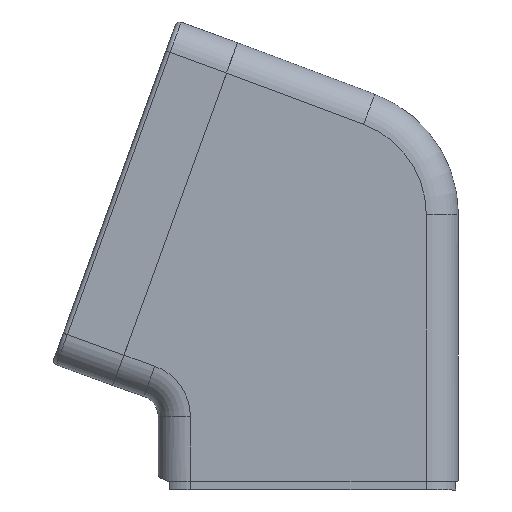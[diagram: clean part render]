
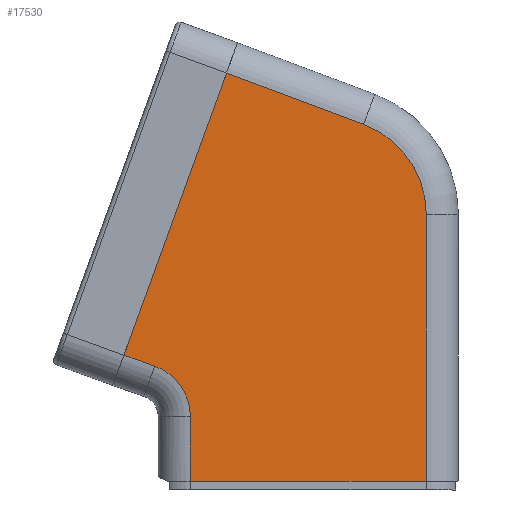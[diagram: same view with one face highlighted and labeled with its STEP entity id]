
A CAD part, left-side view. The second image highlights one B-rep face of the part: STEP entity #17530.
In plain terms, the highlighted planar face has unit normal (-1, 0, 0).
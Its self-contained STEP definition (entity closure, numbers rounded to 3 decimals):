
#254 = LINE ( 'NONE', #9637, #25061 ) ;
#760 = ORIENTED_EDGE ( 'NONE', *, *, #7669, .T. ) ;
#1112 = LINE ( 'NONE', #3852, #20192 ) ;
#1234 = CARTESIAN_POINT ( 'NONE',  ( -42.5, -12.88, 83.263 ) ) ;
#1364 = CARTESIAN_POINT ( 'NONE',  ( -42.5, 27.5, 1.61 ) ) ;
#1486 = DIRECTION ( 'NONE',  ( 0., 0., 1. ) ) ;
#1686 = CARTESIAN_POINT ( 'NONE',  ( -42.5, 35.827, 26.887 ) ) ;
#1837 = CARTESIAN_POINT ( 'NONE',  ( -42.5, -34.5, 0.5 ) ) ;
#1860 = DIRECTION ( 'NONE',  ( 0., -0.342, 0.94 ) ) ;
#2212 = CIRCLE ( 'NONE', #23828, 22.5 ) ;
#2235 = CARTESIAN_POINT ( 'NONE',  ( -42.5, 35.827, 26.887 ) ) ;
#3852 = CARTESIAN_POINT ( 'NONE',  ( -42.5, 15.5, 0. ) ) ;
#3857 = DIRECTION ( 'NONE',  ( 0., 0., -1. ) ) ;
#4335 = DIRECTION ( 'NONE',  ( 0., 0., 1. ) ) ;
#4580 = EDGE_CURVE ( 'NONE', #29198, #23390, #28071, .T. ) ;
#5239 = ORIENTED_EDGE ( 'NONE', *, *, #7562, .T. ) ;
#5247 = CARTESIAN_POINT ( 'NONE',  ( -42.5, 27.5, 15.104 ) ) ;
#5332 = VECTOR ( 'NONE', #1486, 1000. ) ;
#5692 = VERTEX_POINT ( 'NONE', #26602 ) ;
#5944 = VERTEX_POINT ( 'NONE', #1234 ) ;
#6061 = VECTOR ( 'NONE', #9744, 1000. ) ;
#6350 = DIRECTION ( 'NONE',  ( 0., 1., 0. ) ) ;
#6729 = PLANE ( 'NONE',  #8433 ) ;
#7562 = EDGE_CURVE ( 'NONE', #12869, #10602, #12756, .T. ) ;
#7622 = EDGE_CURVE ( 'NONE', #10602, #12643, #25098, .T. ) ;
#7669 = EDGE_CURVE ( 'NONE', #8014, #5692, #30830, .T. ) ;
#7708 = EDGE_CURVE ( 'NONE', #5692, #5944, #2212, .T. ) ;
#7799 = EDGE_CURVE ( 'NONE', #5944, #23390, #254, .T. ) ;
#7805 = EDGE_CURVE ( 'NONE', #29198, #12869, #31577, .T. ) ;
#8014 = VERTEX_POINT ( 'NONE', #27743 ) ;
#8102 = ORIENTED_EDGE ( 'NONE', *, *, #7799, .T. ) ;
#8433 = AXIS2_PLACEMENT_3D ( 'NONE', #1837, #19230, #4335 ) ;
#8500 = ORIENTED_EDGE ( 'NONE', *, *, #25511, .F. ) ;
#8927 = ORIENTED_EDGE ( 'NONE', *, *, #4580, .F. ) ;
#9637 = CARTESIAN_POINT ( 'NONE',  ( -42.5, 19.146, 95.237 ) ) ;
#9744 = DIRECTION ( 'NONE',  ( 0., -0.943, -0.334 ) ) ;
#9937 = ORIENTED_EDGE ( 'NONE', *, *, #7708, .T. ) ;
#9938 = ORIENTED_EDGE ( 'NONE', *, *, #7622, .T. ) ;
#10602 = VERTEX_POINT ( 'NONE', #5247 ) ;
#11711 = CARTESIAN_POINT ( 'NONE',  ( -42.5, -5., 62.188 ) ) ;
#12131 = FACE_OUTER_BOUND ( 'NONE', #21823, .T. ) ;
#12643 = VERTEX_POINT ( 'NONE', #30350 ) ;
#12756 = CIRCLE ( 'NONE', #24118, 12.5 ) ;
#12869 = VERTEX_POINT ( 'NONE', #1686 ) ;
#13790 = DIRECTION ( 'NONE',  ( 1., 0., 0. ) ) ;
#14230 = DIRECTION ( 'NONE',  ( 0., 0., 1. ) ) ;
#17530 = ADVANCED_FACE ( 'NONE', ( #12131 ), #6729, .T. ) ;
#17974 = CARTESIAN_POINT ( 'NONE',  ( -42.5, 43.026, 29.436 ) ) ;
#18872 = CARTESIAN_POINT ( 'NONE',  ( -42.5, -27.5, 62.188 ) ) ;
#19230 = DIRECTION ( 'NONE',  ( -1., 0., 0. ) ) ;
#20123 = VECTOR ( 'NONE', #3857, 1000. ) ;
#20192 = VECTOR ( 'NONE', #6350, 1000. ) ;
#21563 = VECTOR ( 'NONE', #1860, 1000. ) ;
#21823 = EDGE_LOOP ( 'NONE', ( #5239, #9938, #8500, #760, #9937, #8102, #8927, #25230 ) ) ;
#22084 = DIRECTION ( 'NONE',  ( 0., 0.937, 0.35 ) ) ;
#23390 = VERTEX_POINT ( 'NONE', #30803 ) ;
#23828 = AXIS2_PLACEMENT_3D ( 'NONE', #11711, #28942, #14230 ) ;
#24118 = AXIS2_PLACEMENT_3D ( 'NONE', #28503, #13790, #30970 ) ;
#25061 = VECTOR ( 'NONE', #22084, 1000. ) ;
#25098 = LINE ( 'NONE', #1364, #20123 ) ;
#25230 = ORIENTED_EDGE ( 'NONE', *, *, #7805, .T. ) ;
#25511 = EDGE_CURVE ( 'NONE', #8014, #12643, #1112, .T. ) ;
#26602 = CARTESIAN_POINT ( 'NONE',  ( -42.5, -27.5, 62.188 ) ) ;
#27743 = CARTESIAN_POINT ( 'NONE',  ( -42.5, -27.5, 0. ) ) ;
#28071 = LINE ( 'NONE', #31472, #21563 ) ;
#28503 = CARTESIAN_POINT ( 'NONE',  ( -42.5, 40., 15.104 ) ) ;
#28942 = DIRECTION ( 'NONE',  ( -1., 0., 0. ) ) ;
#29198 = VERTEX_POINT ( 'NONE', #17974 ) ;
#30350 = CARTESIAN_POINT ( 'NONE',  ( -42.5, 27.5, 0. ) ) ;
#30803 = CARTESIAN_POINT ( 'NONE',  ( -42.5, 19.085, 95.214 ) ) ;
#30830 = LINE ( 'NONE', #18872, #5332 ) ;
#30970 = DIRECTION ( 'NONE',  ( 0., 0., 1. ) ) ;
#31472 = CARTESIAN_POINT ( 'NONE',  ( -42.5, 17.546, 99.443 ) ) ;
#31577 = LINE ( 'NONE', #2235, #6061 ) ;
